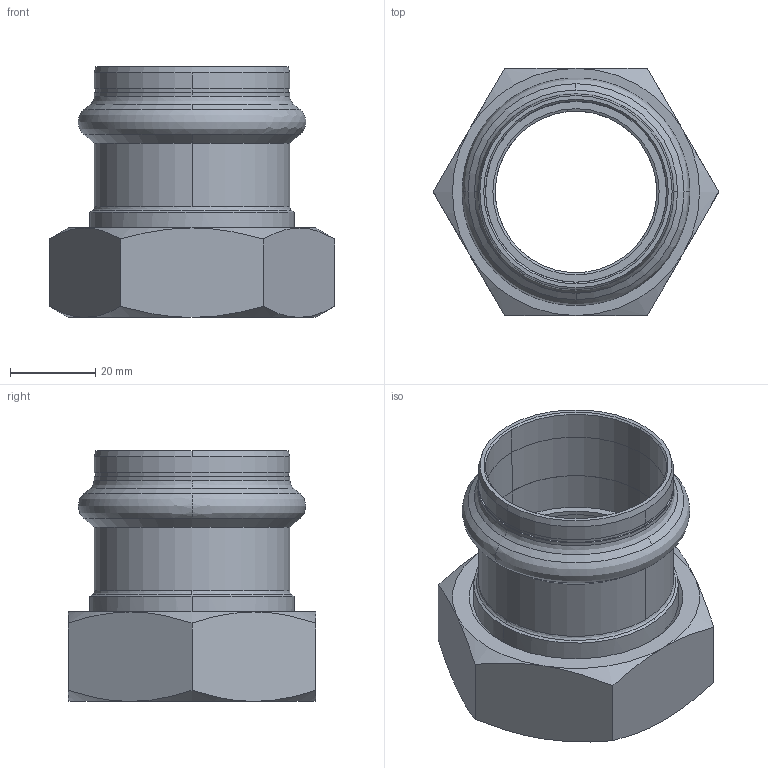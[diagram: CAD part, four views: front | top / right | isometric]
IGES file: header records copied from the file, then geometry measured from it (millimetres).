
Start section: Elysium IGES Interface
Global section: file name: C:\Users\Wallenburg\Desktop\3d modellen sudo\S-Pr VP\SP6359GV\6359GVW42134.igs; native system: CoCreate Modeling 17.00A  17-Jun-2010; preprocessor: CoCreate IGES_3D V2.2; author: Unknown; organization: Unknown; date: 20130124.130959; units: millimetre
Bounding box: 66.97 x 58 x 58.86 mm (x, y, z)
Volume: 38415 mm3; surface area: 24398 mm2
Topology: 2 solids, 2 shells, 88 faces, 210 edges, 130 vertices
Faces by surface type: bspline 88
